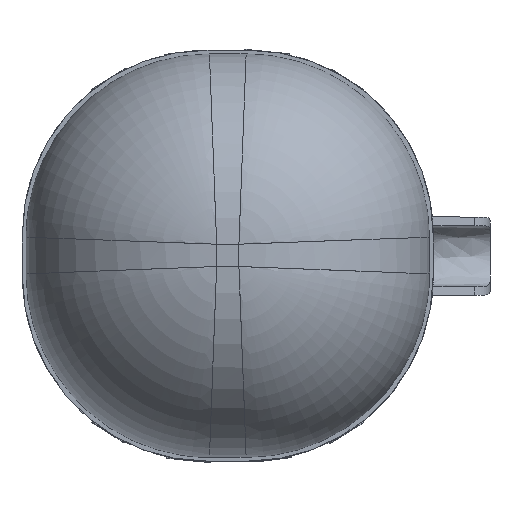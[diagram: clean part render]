
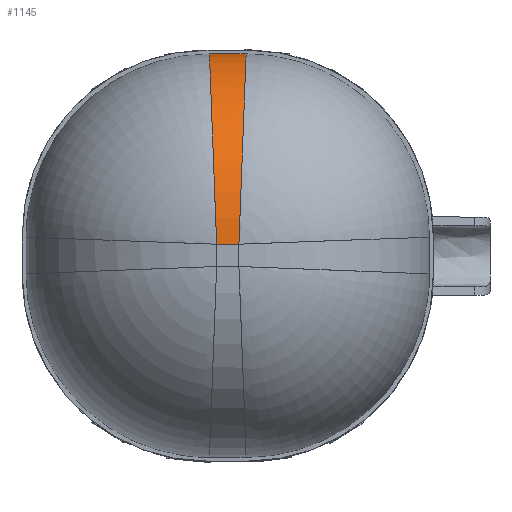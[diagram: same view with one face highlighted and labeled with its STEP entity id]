
A CAD part, top view. The second image highlights one B-rep face of the part: STEP entity #1145.
In plain terms, the highlighted cylindrical face has radius 78 mm (diameter 156 mm), a partial arc.
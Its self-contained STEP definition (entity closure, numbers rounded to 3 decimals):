
#104=B_SPLINE_CURVE_WITH_KNOTS('',3,(#5669,#5670,#5671,#5672,#5673,#5674,
#5675,#5676,#5677,#5678,#5679,#5680,#5681,#5682,#5683,#5684,#5685,#5686,
#5687,#5688,#5689,#5690,#5691,#5692,#5693,#5694,#5695,#5696,#5697,#5698,
#5699,#5700),.UNSPECIFIED.,.F.,.F.,(4,2,2,2,2,2,2,1,2,1,2,1,2,1,2,2,2,4),
(0.,0.063,0.125,0.188,0.25,0.313,0.375,0.438,0.5,0.563,0.625,0.688,
0.75,0.813,0.875,0.938,0.969,1.),.UNSPECIFIED.);
#105=B_SPLINE_CURVE_WITH_KNOTS('',3,(#5701,#5702,#5703,#5704,#5705,#5706,
#5707,#5708,#5709,#5710,#5711,#5712,#5713,#5714,#5715,#5716,#5717,#5718,
#5719,#5720,#5721,#5722,#5723,#5724,#5725,#5726,#5727,#5728,#5729,#5730,
#5731,#5732),.UNSPECIFIED.,.F.,.F.,(4,2,2,2,1,2,1,2,1,2,1,2,2,2,2,2,2,4),
(0.,0.031,0.063,0.125,0.188,0.25,0.313,0.375,0.438,0.5,0.563,0.625,
0.688,0.75,0.813,0.875,0.938,1.),.UNSPECIFIED.);
#427=LINE('',#5495,#668);
#438=LINE('',#5647,#679);
#668=VECTOR('',#4640,1.);
#679=VECTOR('',#4653,1.);
#928=CYLINDRICAL_SURFACE('',#4312,78.);
#1145=ADVANCED_FACE('',(#1520),#928,.T.);
#1520=FACE_OUTER_BOUND('',#1759,.T.);
#1759=EDGE_LOOP('',(#2061,#2062,#2063,#2064));
#2061=ORIENTED_EDGE('',*,*,#3655,.T.);
#2062=ORIENTED_EDGE('',*,*,#3657,.F.);
#2063=ORIENTED_EDGE('',*,*,#3637,.F.);
#2064=ORIENTED_EDGE('',*,*,#3658,.F.);
#3221=VERTEX_POINT('',#5496);
#3222=VERTEX_POINT('',#5497);
#3239=VERTEX_POINT('',#5646);
#3240=VERTEX_POINT('',#5648);
#3637=EDGE_CURVE('',#3221,#3222,#427,.T.);
#3655=EDGE_CURVE('',#3240,#3239,#438,.T.);
#3657=EDGE_CURVE('',#3222,#3239,#104,.T.);
#3658=EDGE_CURVE('',#3240,#3221,#105,.T.);
#4312=AXIS2_PLACEMENT_3D('',#5733,#4656,#4657);
#4640=DIRECTION('',(-1.,0.,0.));
#4653=DIRECTION('',(-1.,0.,0.));
#4656=DIRECTION('',(-1.,0.,0.));
#4657=DIRECTION('',(0.,0.,-1.));
#5495=CARTESIAN_POINT('',(-7.5,4.558,279.));
#5496=CARTESIAN_POINT('',(4.558,4.558,279.));
#5497=CARTESIAN_POINT('',(-4.558,4.558,279.));
#5646=CARTESIAN_POINT('',(-7.5,82.5,204.));
#5647=CARTESIAN_POINT('',(0.,82.5,204.));
#5648=CARTESIAN_POINT('',(7.5,82.5,204.));
#5669=CARTESIAN_POINT('',(-4.558,4.558,279.));
#5670=CARTESIAN_POINT('',(-4.652,7.048,279.));
#5671=CARTESIAN_POINT('',(-4.746,9.538,278.881));
#5672=CARTESIAN_POINT('',(-4.933,14.495,278.404));
#5673=CARTESIAN_POINT('',(-5.026,16.962,278.048));
#5674=CARTESIAN_POINT('',(-5.211,21.851,277.1));
#5675=CARTESIAN_POINT('',(-5.302,24.273,276.508));
#5676=CARTESIAN_POINT('',(-5.482,29.049,275.097));
#5677=CARTESIAN_POINT('',(-5.571,31.403,274.277));
#5678=CARTESIAN_POINT('',(-5.745,36.022,272.416));
#5679=CARTESIAN_POINT('',(-5.831,38.287,271.374));
#5680=CARTESIAN_POINT('',(-5.998,42.707,269.08));
#5681=CARTESIAN_POINT('',(-6.079,44.862,267.826));
#5682=CARTESIAN_POINT('',(-6.237,49.042,265.12));
#5683=CARTESIAN_POINT('',(-6.39,53.093,262.213));
#5684=CARTESIAN_POINT('',(-6.532,56.847,258.932));
#5685=CARTESIAN_POINT('',(-6.667,60.435,255.478));
#5686=CARTESIAN_POINT('',(-6.796,63.858,251.853));
#5687=CARTESIAN_POINT('',(-6.912,66.919,247.918));
#5688=CARTESIAN_POINT('',(-7.02,69.785,243.845));
#5689=CARTESIAN_POINT('',(-7.121,72.455,239.634));
#5690=CARTESIAN_POINT('',(-7.206,74.71,235.188));
#5691=CARTESIAN_POINT('',(-7.283,76.748,230.644));
#5692=CARTESIAN_POINT('',(-7.352,78.568,226.002));
#5693=CARTESIAN_POINT('',(-7.403,79.936,221.208));
#5694=CARTESIAN_POINT('',(-7.446,81.071,216.359));
#5695=CARTESIAN_POINT('',(-7.463,81.523,213.907));
#5696=CARTESIAN_POINT('',(-7.482,82.023,210.206));
#5697=CARTESIAN_POINT('',(-7.487,82.16,208.968));
#5698=CARTESIAN_POINT('',(-7.495,82.374,206.487));
#5699=CARTESIAN_POINT('',(-7.498,82.452,205.244));
#5700=CARTESIAN_POINT('',(-7.5,82.5,204.));
#5701=CARTESIAN_POINT('',(7.5,82.5,204.));
#5702=CARTESIAN_POINT('',(7.498,82.452,205.244));
#5703=CARTESIAN_POINT('',(7.495,82.374,206.487));
#5704=CARTESIAN_POINT('',(7.487,82.16,208.968));
#5705=CARTESIAN_POINT('',(7.482,82.023,210.206));
#5706=CARTESIAN_POINT('',(7.463,81.523,213.907));
#5707=CARTESIAN_POINT('',(7.446,81.071,216.359));
#5708=CARTESIAN_POINT('',(7.403,79.936,221.208));
#5709=CARTESIAN_POINT('',(7.352,78.568,226.002));
#5710=CARTESIAN_POINT('',(7.283,76.748,230.644));
#5711=CARTESIAN_POINT('',(7.206,74.71,235.188));
#5712=CARTESIAN_POINT('',(7.121,72.455,239.634));
#5713=CARTESIAN_POINT('',(7.02,69.785,243.845));
#5714=CARTESIAN_POINT('',(6.912,66.919,247.918));
#5715=CARTESIAN_POINT('',(6.796,63.858,251.853));
#5716=CARTESIAN_POINT('',(6.667,60.435,255.478));
#5717=CARTESIAN_POINT('',(6.532,56.847,258.932));
#5718=CARTESIAN_POINT('',(6.39,53.093,262.213));
#5719=CARTESIAN_POINT('',(6.237,49.042,265.12));
#5720=CARTESIAN_POINT('',(6.079,44.862,267.826));
#5721=CARTESIAN_POINT('',(5.998,42.707,269.08));
#5722=CARTESIAN_POINT('',(5.831,38.287,271.374));
#5723=CARTESIAN_POINT('',(5.745,36.022,272.416));
#5724=CARTESIAN_POINT('',(5.571,31.403,274.277));
#5725=CARTESIAN_POINT('',(5.482,29.049,275.097));
#5726=CARTESIAN_POINT('',(5.302,24.273,276.508));
#5727=CARTESIAN_POINT('',(5.211,21.851,277.1));
#5728=CARTESIAN_POINT('',(5.026,16.962,278.048));
#5729=CARTESIAN_POINT('',(4.933,14.495,278.404));
#5730=CARTESIAN_POINT('',(4.746,9.538,278.881));
#5731=CARTESIAN_POINT('',(4.652,7.048,279.));
#5732=CARTESIAN_POINT('',(4.558,4.558,279.));
#5733=CARTESIAN_POINT('',(0.,4.558,201.));
